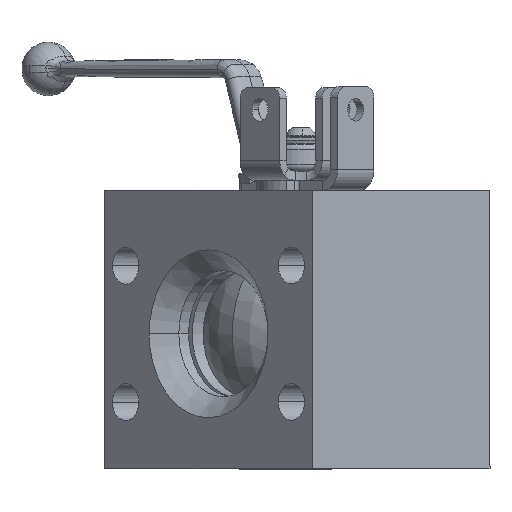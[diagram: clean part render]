
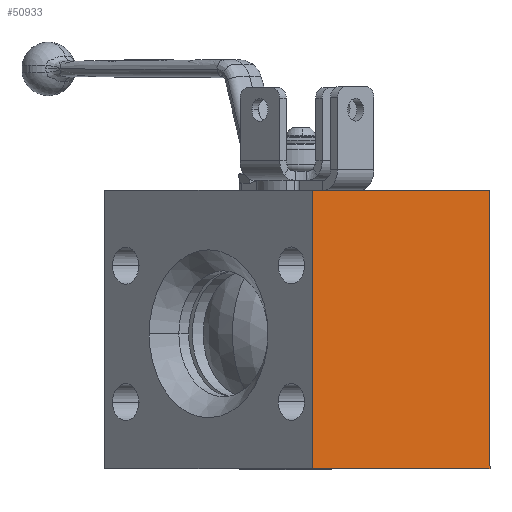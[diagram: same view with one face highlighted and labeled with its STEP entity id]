
A CAD part, top view. The second image highlights one B-rep face of the part: STEP entity #50933.
In plain terms, the highlighted planar face has unit normal (0.707, 0, 0.707).
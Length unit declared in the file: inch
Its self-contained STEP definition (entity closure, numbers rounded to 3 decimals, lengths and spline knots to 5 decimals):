
#264 = LINE ( 'NONE', #545, #39561 ) ;
#545 = CARTESIAN_POINT ( 'NONE',  ( 10.35083, -4.34556, 1.1635 ) ) ;
#5040 = LINE ( 'NONE', #21481, #33512 ) ;
#5375 = CARTESIAN_POINT ( 'NONE',  ( 7.17946, -4.34556, 4.33487 ) ) ;
#7070 = EDGE_LOOP ( 'NONE', ( #25302, #38805, #20066, #36394 ) ) ;
#9939 = VERTEX_POINT ( 'NONE', #45980 ) ;
#10657 = DIRECTION ( 'NONE',  ( 0.707, 0., -0.707 ) ) ;
#11807 = DIRECTION ( 'NONE',  ( -0.707, 0., -0.707 ) ) ;
#16763 = VERTEX_POINT ( 'NONE', #26857 ) ;
#16972 = EDGE_CURVE ( 'NONE', #9939, #24735, #5040, .T. ) ;
#18089 = EDGE_CURVE ( 'NONE', #9939, #19315, #31905, .T. ) ;
#19315 = VERTEX_POINT ( 'NONE', #35320 ) ;
#20066 = ORIENTED_EDGE ( 'NONE', *, *, #16972, .F. ) ;
#20169 = FACE_OUTER_BOUND ( 'NONE', #7070, .T. ) ;
#21481 = CARTESIAN_POINT ( 'NONE',  ( 7.17946, -4.34556, 4.33487 ) ) ;
#24735 = VERTEX_POINT ( 'NONE', #48809 ) ;
#25302 = ORIENTED_EDGE ( 'NONE', *, *, #34944, .T. ) ;
#26857 = CARTESIAN_POINT ( 'NONE',  ( 10.35083, 0.62444, 1.1635 ) ) ;
#28853 = DIRECTION ( 'NONE',  ( 0., -1., 0. ) ) ;
#30372 = LINE ( 'NONE', #40159, #51366 ) ;
#30647 = DIRECTION ( 'NONE',  ( 0.707, 0., -0.707 ) ) ;
#31905 = LINE ( 'NONE', #5375, #47931 ) ;
#33512 = VECTOR ( 'NONE', #34921, 39.37008 ) ;
#34921 = DIRECTION ( 'NONE',  ( 0., 1., 0. ) ) ;
#34944 = EDGE_CURVE ( 'NONE', #19315, #16763, #264, .T. ) ;
#35320 = CARTESIAN_POINT ( 'NONE',  ( 10.35083, -4.34556, 1.1635 ) ) ;
#36394 = ORIENTED_EDGE ( 'NONE', *, *, #18089, .T. ) ;
#38805 = ORIENTED_EDGE ( 'NONE', *, *, #47912, .F. ) ;
#39561 = VECTOR ( 'NONE', #46676, 39.37008 ) ;
#40159 = CARTESIAN_POINT ( 'NONE',  ( 7.17946, 0.62444, 4.33487 ) ) ;
#41732 = CARTESIAN_POINT ( 'NONE',  ( 7.17946, -4.34556, 4.33487 ) ) ;
#45980 = CARTESIAN_POINT ( 'NONE',  ( 7.17946, -4.34556, 4.33487 ) ) ;
#46676 = DIRECTION ( 'NONE',  ( 0., 1., 0. ) ) ;
#47912 = EDGE_CURVE ( 'NONE', #24735, #16763, #30372, .T. ) ;
#47931 = VECTOR ( 'NONE', #10657, 39.37008 ) ;
#48809 = CARTESIAN_POINT ( 'NONE',  ( 7.17946, 0.62444, 4.33487 ) ) ;
#50933 = ADVANCED_FACE ( 'NONE', ( #20169 ), #54872, .F. ) ;
#51366 = VECTOR ( 'NONE', #30647, 39.37008 ) ;
#53120 = AXIS2_PLACEMENT_3D ( 'NONE', #41732, #11807, #28853 ) ;
#54872 = PLANE ( 'NONE',  #53120 ) ;
